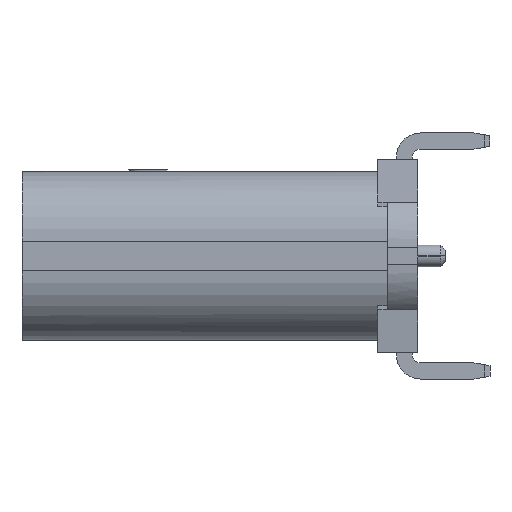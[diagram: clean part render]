
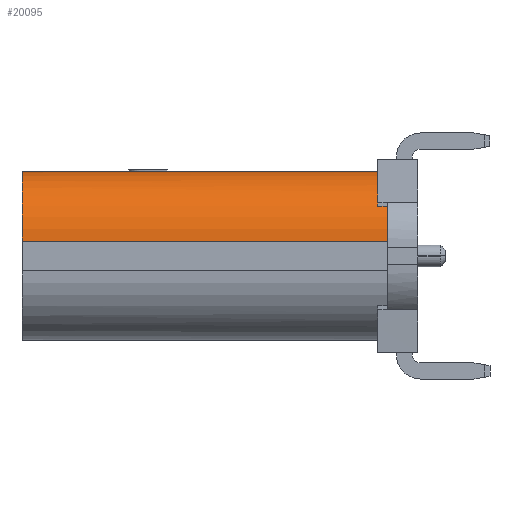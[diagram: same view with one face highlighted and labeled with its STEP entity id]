
A CAD part, front view. The second image highlights one B-rep face of the part: STEP entity #20095.
In plain terms, the highlighted cylindrical face has radius 1.3 mm (diameter 2.6 mm), a partial arc.
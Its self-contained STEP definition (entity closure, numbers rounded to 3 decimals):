
#823 = CARTESIAN_POINT ( 'NONE',  ( 55.52, 250.53, 0.105 ) ) ;
#1489 = DIRECTION ( 'NONE',  ( 1., 0., 0. ) ) ;
#2221 = EDGE_CURVE ( 'NONE', #25568, #21273, #18730, .T. ) ;
#2355 = AXIS2_PLACEMENT_3D ( 'NONE', #18935, #31732, #21664 ) ;
#2448 = DIRECTION ( 'NONE',  ( 1., 0., 0. ) ) ;
#3098 = VECTOR ( 'NONE', #1489, 1000. ) ;
#4396 = CIRCLE ( 'NONE', #19108, 1.3 ) ;
#4650 = DIRECTION ( 'NONE',  ( -1., 0., 0. ) ) ;
#4808 = DIRECTION ( 'NONE',  ( 0., -0.866, 0.5 ) ) ;
#4839 = CARTESIAN_POINT ( 'NONE',  ( 55.52, 251.83, 1.405 ) ) ;
#4865 = EDGE_CURVE ( 'NONE', #27369, #6808, #28506, .T. ) ;
#6074 = CIRCLE ( 'NONE', #8807, 1.3 ) ;
#6808 = VERTEX_POINT ( 'NONE', #8430 ) ;
#7458 = ORIENTED_EDGE ( 'NONE', *, *, #2221, .F. ) ;
#7552 = CARTESIAN_POINT ( 'NONE',  ( 62.487, 251.83, 0.105 ) ) ;
#7555 = ORIENTED_EDGE ( 'NONE', *, *, #18848, .T. ) ;
#7730 = DIRECTION ( 'NONE',  ( 0., -1., 0. ) ) ;
#7763 = DIRECTION ( 'NONE',  ( 0., -0.081, 0.997 ) ) ;
#8186 = ORIENTED_EDGE ( 'NONE', *, *, #4865, .T. ) ;
#8430 = CARTESIAN_POINT ( 'NONE',  ( 62.17, 251.725, 1.401 ) ) ;
#8807 = AXIS2_PLACEMENT_3D ( 'NONE', #28179, #31083, #4808 ) ;
#9731 = AXIS2_PLACEMENT_3D ( 'NONE', #12441, #20449, #15158 ) ;
#10501 = VERTEX_POINT ( 'NONE', #22768 ) ;
#10948 = VECTOR ( 'NONE', #13760, 1000. ) ;
#11446 = AXIS2_PLACEMENT_3D ( 'NONE', #12510, #2448, #25818 ) ;
#12441 = CARTESIAN_POINT ( 'NONE',  ( 55.52, 251.83, 0.105 ) ) ;
#12469 = ORIENTED_EDGE ( 'NONE', *, *, #24414, .F. ) ;
#12510 = CARTESIAN_POINT ( 'NONE',  ( 62.35, 251.83, 0.105 ) ) ;
#13103 = EDGE_LOOP ( 'NONE', ( #18393, #29767, #25466, #7458, #12469, #20851, #7555, #8186 ) ) ;
#13320 = CARTESIAN_POINT ( 'NONE',  ( 62.17, 251.049, 1.144 ) ) ;
#13435 = CARTESIAN_POINT ( 'NONE',  ( 55.52, 251.83, 1.405 ) ) ;
#13652 = VERTEX_POINT ( 'NONE', #33754 ) ;
#13718 = EDGE_CURVE ( 'NONE', #21273, #28039, #23347, .T. ) ;
#13760 = DIRECTION ( 'NONE',  ( 1., 0., 0. ) ) ;
#15158 = DIRECTION ( 'NONE',  ( 0., -1., 0. ) ) ;
#16339 = DIRECTION ( 'NONE',  ( -1., 0., 0. ) ) ;
#18242 = EDGE_CURVE ( 'NONE', #13652, #21287, #31668, .T. ) ;
#18393 = ORIENTED_EDGE ( 'NONE', *, *, #22980, .T. ) ;
#18730 = LINE ( 'NONE', #23693, #26043 ) ;
#18848 = EDGE_CURVE ( 'NONE', #13652, #27369, #6074, .T. ) ;
#18935 = CARTESIAN_POINT ( 'NONE',  ( 62.17, 251.83, 0.105 ) ) ;
#19050 = CARTESIAN_POINT ( 'NONE',  ( 62.17, 250.704, 0.755 ) ) ;
#19108 = AXIS2_PLACEMENT_3D ( 'NONE', #20549, #29065, #7763 ) ;
#19590 = CARTESIAN_POINT ( 'NONE',  ( 62.35, 250.704, 0.755 ) ) ;
#20095 = ADVANCED_FACE ( 'NONE', ( #20514 ), #30905, .T. ) ;
#20207 = CARTESIAN_POINT ( 'NONE',  ( 62.35, 250.53, 0.105 ) ) ;
#20449 = DIRECTION ( 'NONE',  ( -1., 0., 0. ) ) ;
#20514 = FACE_OUTER_BOUND ( 'NONE', #13103, .T. ) ;
#20549 = CARTESIAN_POINT ( 'NONE',  ( 62.17, 251.83, 0.105 ) ) ;
#20851 = ORIENTED_EDGE ( 'NONE', *, *, #18242, .F. ) ;
#21273 = VERTEX_POINT ( 'NONE', #823 ) ;
#21287 = VERTEX_POINT ( 'NONE', #19590 ) ;
#21664 = DIRECTION ( 'NONE',  ( 0., -0.601, 0.8 ) ) ;
#21816 = CIRCLE ( 'NONE', #11446, 1.3 ) ;
#22768 = CARTESIAN_POINT ( 'NONE',  ( 62.17, 251.83, 1.405 ) ) ;
#22980 = EDGE_CURVE ( 'NONE', #6808, #10501, #4396, .T. ) ;
#23347 = CIRCLE ( 'NONE', #9731, 1.3 ) ;
#23450 = LINE ( 'NONE', #4839, #3098 ) ;
#23693 = CARTESIAN_POINT ( 'NONE',  ( 62.35, 250.53, 0.105 ) ) ;
#24414 = EDGE_CURVE ( 'NONE', #21287, #25568, #21816, .T. ) ;
#24950 = AXIS2_PLACEMENT_3D ( 'NONE', #7552, #4650, #7730 ) ;
#25466 = ORIENTED_EDGE ( 'NONE', *, *, #13718, .F. ) ;
#25568 = VERTEX_POINT ( 'NONE', #20207 ) ;
#25818 = DIRECTION ( 'NONE',  ( 0., -0.866, 0.5 ) ) ;
#26043 = VECTOR ( 'NONE', #16339, 1000. ) ;
#26743 = EDGE_CURVE ( 'NONE', #28039, #10501, #23450, .T. ) ;
#27369 = VERTEX_POINT ( 'NONE', #13320 ) ;
#28039 = VERTEX_POINT ( 'NONE', #13435 ) ;
#28179 = CARTESIAN_POINT ( 'NONE',  ( 62.17, 251.83, 0.105 ) ) ;
#28506 = CIRCLE ( 'NONE', #2355, 1.3 ) ;
#29065 = DIRECTION ( 'NONE',  ( -1., 0., 0. ) ) ;
#29767 = ORIENTED_EDGE ( 'NONE', *, *, #26743, .F. ) ;
#30905 = CYLINDRICAL_SURFACE ( 'NONE', #24950, 1.3 ) ;
#31083 = DIRECTION ( 'NONE',  ( -1., 0., 0. ) ) ;
#31668 = LINE ( 'NONE', #19050, #10948 ) ;
#31732 = DIRECTION ( 'NONE',  ( -1., 0., 0. ) ) ;
#33754 = CARTESIAN_POINT ( 'NONE',  ( 62.17, 250.704, 0.755 ) ) ;
